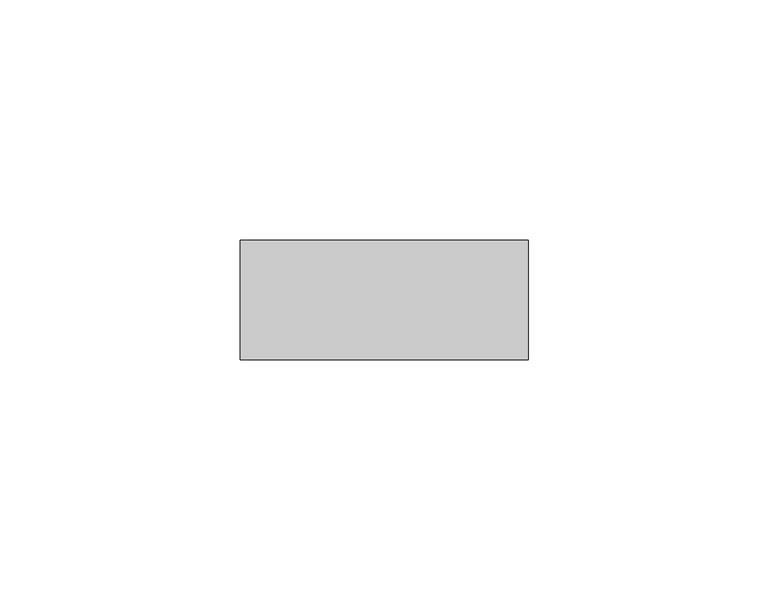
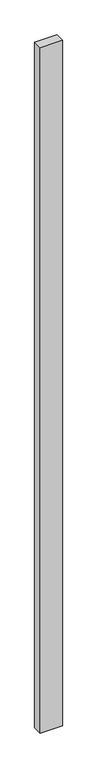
"""IFC4 building model written with IfcOpenShell, lengths in millimetres: plate geometry, Системная панель : С остеклением."""

from ifc_helpers import new_model, si_unit, origin, origin_with_axes, place, context, project, spatial, polyline, outline, extrude, source, transform, mapped, element, save


def plate_1df8aad3(model_context):
    return source(origin(), model_context, "Body", "SweptSolid", [
        extrude(outline(polyline([(30.0, 24.5), (-30.0, 24.5), (-30.0, 49.5), (30.0, 49.5), (30.0, 24.5)])), origin_with_axes(), (0.0, 0.0, 1.0), 1950.0),
    ])


if __name__ == "__main__":
    model = new_model("IFC4")
    model_context = context("Model", 3, world=origin())
    ifc_project = project(units=[si_unit("LENGTHUNIT", "METRE", prefix="MILLI")], contexts=[model_context])
    site = spatial("IfcSite", under=ifc_project)
    building = spatial("IfcBuilding", under=site)
    placement = place(None, origin())
    plate_shape = plate_1df8aad3(model_context)
    element("IfcPlate", 1, ObjectType="Системная панель : С остеклением", at=placement, inside=building, context=model_context, shape_type="MappedRepresentation", body=[
        mapped(plate_shape, transform((0.0, 0.0, 0.0), x_axis=(1.0, 0.0, 0.0), y_axis=(0.0, 1.0, 0.0), z_axis=(0.0, 0.0, 1.0))),
    ])
    save(model, "model.ifc")
